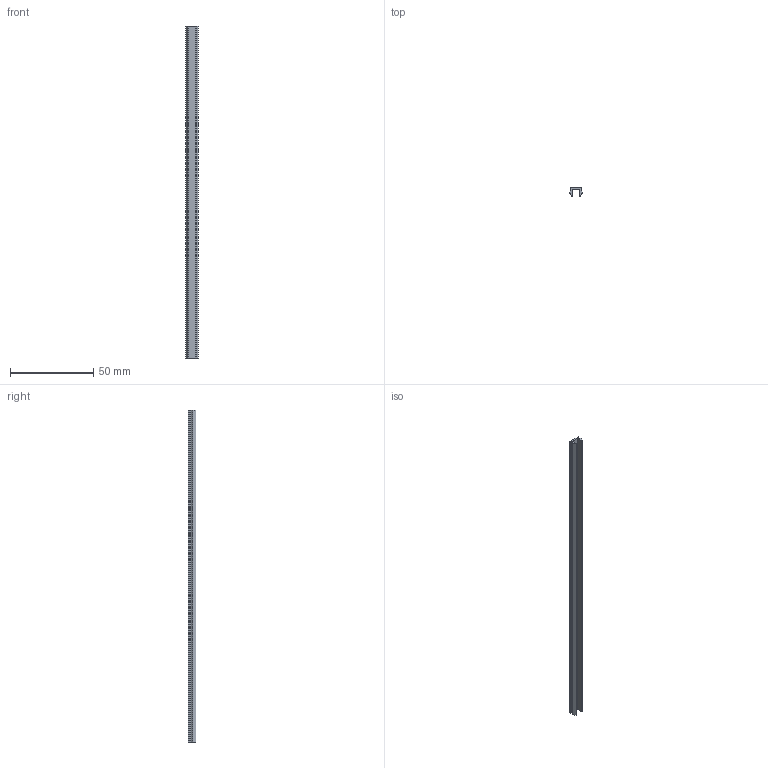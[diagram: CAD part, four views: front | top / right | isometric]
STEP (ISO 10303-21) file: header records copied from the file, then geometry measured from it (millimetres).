
FILE_DESCRIPTION((''),'2;1');
FILE_NAME('E:\catalogue and flyer\Profile catalogue 2015\Accessories ACC info\Accessories ACC step file 31Mar16\ACC-BS2000-6.stp','2016-04-07T15:21:27',('h029'),(''),'Autodesk Inventor 11','Autodesk Inventor 11','');
FILE_SCHEMA(('AUTOMOTIVE_DESIGN { 1 0 10303 214 1 1 1 1 }'));
Length unit declared in the file: millimetre
Products named in the file (1): ACC-BS2000-6
Bounding box: 7.71 x 4.56 x 200 mm (x, y, z)
Volume: 2587.5 mm3; surface area: 6196.8 mm2
Topology: 1 solids, 1 shells, 22 faces, 60 edges, 40 vertices
Faces by surface type: plane 16, cylinder 6
Entity records: 719 total; most frequent: CARTESIAN_POINT 123, ORIENTED_EDGE 120, DIRECTION 118, EDGE_CURVE 60, VECTOR 48, LINE 48, VERTEX_POINT 40, AXIS2_PLACEMENT_3D 35
